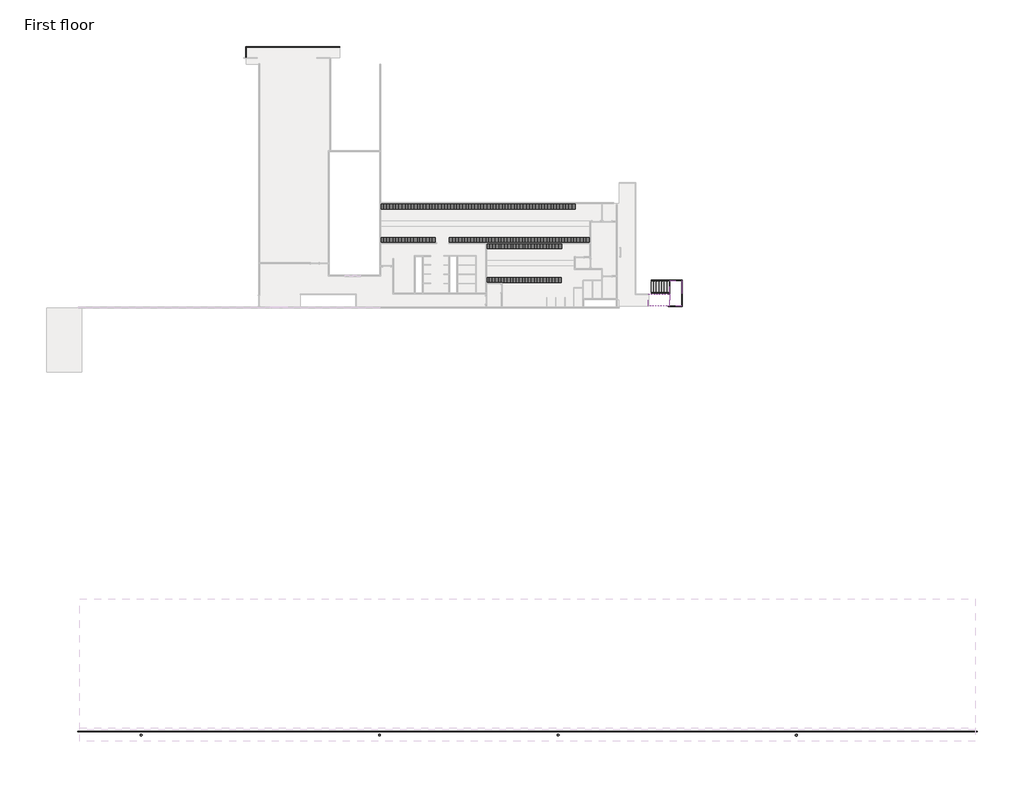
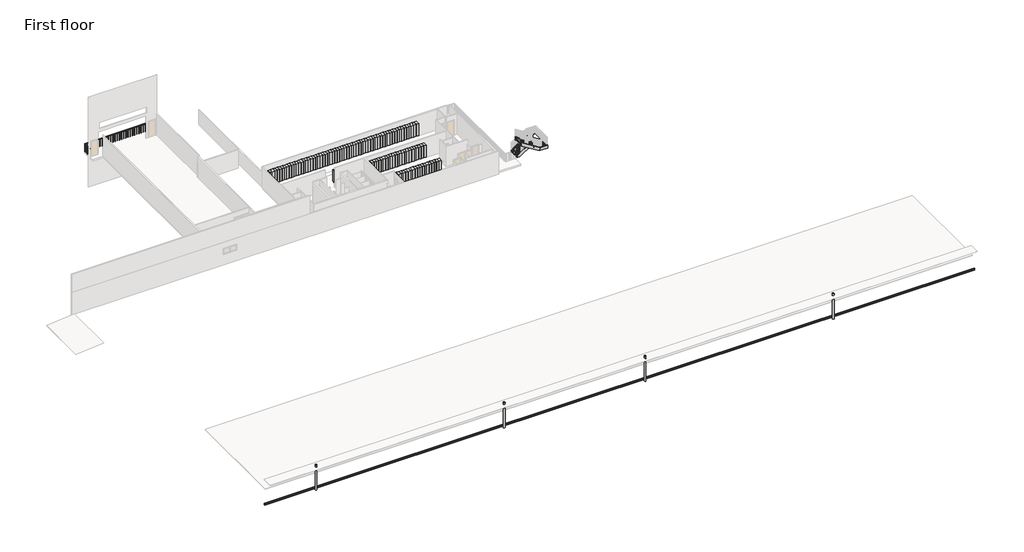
# One storey, part 5 of 5: 49 proxies, 8 members, 2 stair flights, 1 railing, 1 slab.
"""IFC4 building model written with IfcOpenShell, lengths in millimetres."""

from ifc_helpers import new_model, si_unit, frame, origin, place, context, project, spatial, polyline, outline, extrude, faceted_brep, transform, mapped, element, save
from components import generic_models_24_generic_models_24_b97e8785, generic_models_22_generic_models_5_a0ad3e2a, lockers_2_lockers_2_2d2369c1, non_monolithic_landing_4b6169c6, stair_flight_50mm_tread_13mm_riser_8a7f8e9f, stair_flight_50mm_tread_13mm_riser_0991af2e

model = new_model("IFC4")

# Units and contexts
model_context = context("Model", 3, world=origin())
ifc_project = project(units=[si_unit("LENGTHUNIT", "METRE", prefix="MILLI")], contexts=[model_context])

# Site, building, storey
site = spatial("IfcSite", under=ifc_project)
building = spatial("IfcBuilding", under=site)
storey = spatial("IfcBuildingStorey", under=building, Name="First floor", Elevation=48170.0)

# Proxies
placement = place(None, origin())
generic_models_24_generic_models_24_shape = generic_models_24_generic_models_24_b97e8785(model_context)
element("IfcBuildingElementProxy", 1, Name="Generic Models 24 : Generic Models 24", ObjectType="Generic Models 24 : Generic Models 24", at=placement, inside=storey, context=model_context, shape_type="MappedRepresentation", body=[
    mapped(generic_models_24_generic_models_24_shape, transform((0.0, -187.822734, 0.0), x_axis=(1.0, 0.0, 0.0), y_axis=(0.0, 1.0, 0.0), z_axis=(0.0, 0.0, 1.0))),
])
generic_models_22_generic_models_5_shape = generic_models_22_generic_models_5_a0ad3e2a(model_context)
element("IfcBuildingElementProxy", 2, Name="Generic Models 9 : Generic Models 5", ObjectType="Generic Models 9 : Generic Models 5", at=placement, inside=storey, context=model_context, shape_type="MappedRepresentation", body=[
    mapped(generic_models_22_generic_models_5_shape, transform((0.0, 3175.7150557, 165.0269221), x_axis=(1.0, 0.0, 0.0), y_axis=(0.0, 1.0, 0.0), z_axis=(0.0, 0.0, 1.0))),
])
lockers_2_lockers_2_shape = lockers_2_lockers_2_2d2369c1(model_context)
element("IfcBuildingElementProxy", 3, Name="lockers 2 : lockers 2", ObjectType="lockers 2 : lockers 2", at=placement, inside=storey, context=model_context, shape_type="MappedRepresentation", body=[
    mapped(lockers_2_lockers_2_shape, transform((-104247.796161, 21569.2777512, 48170.0), x_axis=(1.0, 0.0, 0.0), y_axis=(0.0, 1.0, 0.0), z_axis=(0.0, 0.0, 1.0))),
])
element("IfcBuildingElementProxy", 4, Name="lockers 2 : lockers 2", ObjectType="lockers 2 : lockers 2", at=placement, inside=storey, context=model_context, shape_type="MappedRepresentation", body=[
    mapped(lockers_2_lockers_2_shape, transform((-103027.796161, 21569.2777512, 48170.0), x_axis=(1.0, 0.0, 0.0), y_axis=(0.0, 1.0, 0.0), z_axis=(0.0, 0.0, 1.0))),
])
element("IfcBuildingElementProxy", 5, Name="lockers 2 : lockers 2", ObjectType="lockers 2 : lockers 2", at=placement, inside=storey, context=model_context, shape_type="MappedRepresentation", body=[
    mapped(lockers_2_lockers_2_shape, transform((-101807.796161, 21569.2777512, 48170.0), x_axis=(1.0, 0.0, 0.0), y_axis=(0.0, 1.0, 0.0), z_axis=(0.0, 0.0, 1.0))),
])
element("IfcBuildingElementProxy", 6, Name="lockers 2 : lockers 2", ObjectType="lockers 2 : lockers 2", at=placement, inside=storey, context=model_context, shape_type="MappedRepresentation", body=[
    mapped(lockers_2_lockers_2_shape, transform((-100587.796161, 21569.2777512, 48170.0), x_axis=(1.0, 0.0, 0.0), y_axis=(0.0, 1.0, 0.0), z_axis=(0.0, 0.0, 1.0))),
])
element("IfcBuildingElementProxy", 7, Name="lockers 2 : lockers 2", ObjectType="lockers 2 : lockers 2", at=placement, inside=storey, context=model_context, shape_type="MappedRepresentation", body=[
    mapped(lockers_2_lockers_2_shape, transform((-99367.796161, 21569.2777512, 48170.0), x_axis=(1.0, 0.0, 0.0), y_axis=(0.0, 1.0, 0.0), z_axis=(0.0, 0.0, 1.0))),
])
element("IfcBuildingElementProxy", 8, Name="lockers 2 : lockers 2", ObjectType="lockers 2 : lockers 2", at=placement, inside=storey, context=model_context, shape_type="MappedRepresentation", body=[
    mapped(lockers_2_lockers_2_shape, transform((-98147.796161, 21569.2777512, 48170.0), x_axis=(1.0, 0.0, 0.0), y_axis=(0.0, 1.0, 0.0), z_axis=(0.0, 0.0, 1.0))),
])
element("IfcBuildingElementProxy", 9, Name="lockers 2 : lockers 2", ObjectType="lockers 2 : lockers 2", at=placement, inside=storey, context=model_context, shape_type="MappedRepresentation", body=[
    mapped(lockers_2_lockers_2_shape, transform((-96927.796161, 21569.2777512, 48170.0), x_axis=(1.0, 0.0, 0.0), y_axis=(0.0, 1.0, 0.0), z_axis=(0.0, 0.0, 1.0))),
])
element("IfcBuildingElementProxy", 10, Name="lockers 2 : lockers 2", ObjectType="lockers 2 : lockers 2", at=placement, inside=storey, context=model_context, shape_type="MappedRepresentation", body=[
    mapped(lockers_2_lockers_2_shape, transform((-95707.796161, 21569.2777512, 48170.0), x_axis=(1.0, 0.0, 0.0), y_axis=(0.0, 1.0, 0.0), z_axis=(0.0, 0.0, 1.0))),
])
element("IfcBuildingElementProxy", 11, Name="lockers 2 : lockers 2", ObjectType="lockers 2 : lockers 2", at=placement, inside=storey, context=model_context, shape_type="MappedRepresentation", body=[
    mapped(lockers_2_lockers_2_shape, transform((-94487.796161, 21569.2777512, 48170.0), x_axis=(1.0, 0.0, 0.0), y_axis=(0.0, 1.0, 0.0), z_axis=(0.0, 0.0, 1.0))),
])
element("IfcBuildingElementProxy", 12, Name="lockers 2 : lockers 2", ObjectType="lockers 2 : lockers 2", at=placement, inside=storey, context=model_context, shape_type="MappedRepresentation", body=[
    mapped(lockers_2_lockers_2_shape, transform((-93267.796161, 21569.2777512, 48170.0), x_axis=(1.0, 0.0, 0.0), y_axis=(0.0, 1.0, 0.0), z_axis=(0.0, 0.0, 1.0))),
])
element("IfcBuildingElementProxy", 13, Name="lockers 2 : lockers 2", ObjectType="lockers 2 : lockers 2", at=placement, inside=storey, context=model_context, shape_type="MappedRepresentation", body=[
    mapped(lockers_2_lockers_2_shape, transform((-92047.796161, 21569.2777512, 48170.0), x_axis=(1.0, 0.0, 0.0), y_axis=(0.0, 1.0, 0.0), z_axis=(0.0, 0.0, 1.0))),
])
element("IfcBuildingElementProxy", 14, Name="lockers 2 : lockers 2", ObjectType="lockers 2 : lockers 2", at=placement, inside=storey, context=model_context, shape_type="MappedRepresentation", body=[
    mapped(lockers_2_lockers_2_shape, transform((-90827.796161, 21569.2777512, 48170.0), x_axis=(1.0, 0.0, 0.0), y_axis=(0.0, 1.0, 0.0), z_axis=(0.0, 0.0, 1.0))),
])
element("IfcBuildingElementProxy", 15, Name="lockers 2 : lockers 2", ObjectType="lockers 2 : lockers 2", at=placement, inside=storey, context=model_context, shape_type="MappedRepresentation", body=[
    mapped(lockers_2_lockers_2_shape, transform((-89607.796161, 21569.2777512, 48170.0), x_axis=(1.0, 0.0, 0.0), y_axis=(0.0, 1.0, 0.0), z_axis=(0.0, 0.0, 1.0))),
])
element("IfcBuildingElementProxy", 16, Name="lockers 2 : lockers 2", ObjectType="lockers 2 : lockers 2", at=placement, inside=storey, context=model_context, shape_type="MappedRepresentation", body=[
    mapped(lockers_2_lockers_2_shape, transform((-88387.796161, 21569.2777512, 48170.0), x_axis=(1.0, 0.0, 0.0), y_axis=(0.0, 1.0, 0.0), z_axis=(0.0, 0.0, 1.0))),
])
element("IfcBuildingElementProxy", 17, Name="lockers 2 : lockers 2", ObjectType="lockers 2 : lockers 2", at=placement, inside=storey, context=model_context, shape_type="MappedRepresentation", body=[
    mapped(lockers_2_lockers_2_shape, transform((-87167.796161, 21569.2777512, 48170.0), x_axis=(1.0, 0.0, 0.0), y_axis=(0.0, 1.0, 0.0), z_axis=(0.0, 0.0, 1.0))),
])
element("IfcBuildingElementProxy", 18, Name="lockers 2 : lockers 2", ObjectType="lockers 2 : lockers 2", at=placement, inside=storey, context=model_context, shape_type="MappedRepresentation", body=[
    mapped(lockers_2_lockers_2_shape, transform((-85947.796161, 21569.2777512, 48170.0), x_axis=(1.0, 0.0, 0.0), y_axis=(0.0, 1.0, 0.0), z_axis=(0.0, 0.0, 1.0))),
])
element("IfcBuildingElementProxy", 19, Name="lockers 2 : lockers 2", ObjectType="lockers 2 : lockers 2", at=placement, inside=storey, context=model_context, shape_type="MappedRepresentation", body=[
    mapped(lockers_2_lockers_2_shape, transform((-104247.796161, 18169.2777512, 48170.0), x_axis=(1.0, 0.0, 0.0), y_axis=(0.0, 1.0, 0.0), z_axis=(0.0, 0.0, 1.0))),
])
element("IfcBuildingElementProxy", 20, Name="lockers 2 : lockers 2", ObjectType="lockers 2 : lockers 2", at=placement, inside=storey, context=model_context, shape_type="MappedRepresentation", body=[
    mapped(lockers_2_lockers_2_shape, transform((-103037.6550452, 18169.2777512, 48170.0), x_axis=(1.0, 0.0, 0.0), y_axis=(0.0, 1.0, 0.0), z_axis=(0.0, 0.0, 1.0))),
])
element("IfcBuildingElementProxy", 21, Name="lockers 2 : lockers 2", ObjectType="lockers 2 : lockers 2", at=placement, inside=storey, context=model_context, shape_type="MappedRepresentation", body=[
    mapped(lockers_2_lockers_2_shape, transform((-101827.5139294, 18169.2777512, 48170.0), x_axis=(1.0, 0.0, 0.0), y_axis=(0.0, 1.0, 0.0), z_axis=(0.0, 0.0, 1.0))),
])
element("IfcBuildingElementProxy", 22, Name="lockers 2 : lockers 2", ObjectType="lockers 2 : lockers 2", at=placement, inside=storey, context=model_context, shape_type="MappedRepresentation", body=[
    mapped(lockers_2_lockers_2_shape, transform((-100617.3728136, 18169.2777512, 48170.0), x_axis=(1.0, 0.0, 0.0), y_axis=(0.0, 1.0, 0.0), z_axis=(0.0, 0.0, 1.0))),
])
element("IfcBuildingElementProxy", 23, Name="lockers 2 : lockers 2", ObjectType="lockers 2 : lockers 2", at=placement, inside=storey, context=model_context, shape_type="MappedRepresentation", body=[
    mapped(lockers_2_lockers_2_shape, transform((-97343.0605675, 18169.2777512, 48170.0), x_axis=(1.0, 0.0, 0.0), y_axis=(0.0, 1.0, 0.0), z_axis=(0.0, 0.0, 1.0))),
])
element("IfcBuildingElementProxy", 24, Name="lockers 2 : lockers 2", ObjectType="lockers 2 : lockers 2", at=placement, inside=storey, context=model_context, shape_type="MappedRepresentation", body=[
    mapped(lockers_2_lockers_2_shape, transform((-96123.0605675, 18169.2777512, 48170.0), x_axis=(1.0, 0.0, 0.0), y_axis=(0.0, 1.0, 0.0), z_axis=(0.0, 0.0, 1.0))),
])
element("IfcBuildingElementProxy", 25, Name="lockers 2 : lockers 2", ObjectType="lockers 2 : lockers 2", at=placement, inside=storey, context=model_context, shape_type="MappedRepresentation", body=[
    mapped(lockers_2_lockers_2_shape, transform((-94903.0605675, 18169.2777512, 48170.0), x_axis=(1.0, 0.0, 0.0), y_axis=(0.0, 1.0, 0.0), z_axis=(0.0, 0.0, 1.0))),
])
element("IfcBuildingElementProxy", 26, Name="lockers 2 : lockers 2", ObjectType="lockers 2 : lockers 2", at=placement, inside=storey, context=model_context, shape_type="MappedRepresentation", body=[
    mapped(lockers_2_lockers_2_shape, transform((-93683.0605675, 18169.2777512, 48170.0), x_axis=(1.0, 0.0, 0.0), y_axis=(0.0, 1.0, 0.0), z_axis=(0.0, 0.0, 1.0))),
])
element("IfcBuildingElementProxy", 27, Name="lockers 2 : lockers 2", ObjectType="lockers 2 : lockers 2", at=placement, inside=storey, context=model_context, shape_type="MappedRepresentation", body=[
    mapped(lockers_2_lockers_2_shape, transform((-92463.0605675, 18169.2777512, 48170.0), x_axis=(1.0, 0.0, 0.0), y_axis=(0.0, 1.0, 0.0), z_axis=(0.0, 0.0, 1.0))),
])
element("IfcBuildingElementProxy", 28, Name="lockers 2 : lockers 2", ObjectType="lockers 2 : lockers 2", at=placement, inside=storey, context=model_context, shape_type="MappedRepresentation", body=[
    mapped(lockers_2_lockers_2_shape, transform((-91243.0605675, 18169.2777512, 48170.0), x_axis=(1.0, 0.0, 0.0), y_axis=(0.0, 1.0, 0.0), z_axis=(0.0, 0.0, 1.0))),
])
element("IfcBuildingElementProxy", 29, Name="lockers 2 : lockers 2", ObjectType="lockers 2 : lockers 2", at=placement, inside=storey, context=model_context, shape_type="MappedRepresentation", body=[
    mapped(lockers_2_lockers_2_shape, transform((-90023.0605675, 18169.2777512, 48170.0), x_axis=(1.0, 0.0, 0.0), y_axis=(0.0, 1.0, 0.0), z_axis=(0.0, 0.0, 1.0))),
])
element("IfcBuildingElementProxy", 30, Name="lockers 2 : lockers 2", ObjectType="lockers 2 : lockers 2", at=placement, inside=storey, context=model_context, shape_type="MappedRepresentation", body=[
    mapped(lockers_2_lockers_2_shape, transform((-88803.0605675, 18169.2777512, 48170.0), x_axis=(1.0, 0.0, 0.0), y_axis=(0.0, 1.0, 0.0), z_axis=(0.0, 0.0, 1.0))),
])
element("IfcBuildingElementProxy", 31, Name="lockers 2 : lockers 2", ObjectType="lockers 2 : lockers 2", at=placement, inside=storey, context=model_context, shape_type="MappedRepresentation", body=[
    mapped(lockers_2_lockers_2_shape, transform((-87583.0605675, 18169.2777512, 48170.0), x_axis=(1.0, 0.0, 0.0), y_axis=(0.0, 1.0, 0.0), z_axis=(0.0, 0.0, 1.0))),
])
element("IfcBuildingElementProxy", 32, Name="lockers 2 : lockers 2", ObjectType="lockers 2 : lockers 2", at=placement, inside=storey, context=model_context, shape_type="MappedRepresentation", body=[
    mapped(lockers_2_lockers_2_shape, transform((-86363.0605675, 18169.2777512, 48170.0), x_axis=(1.0, 0.0, 0.0), y_axis=(0.0, 1.0, 0.0), z_axis=(0.0, 0.0, 1.0))),
])
element("IfcBuildingElementProxy", 33, Name="lockers 2 : lockers 2", ObjectType="lockers 2 : lockers 2", at=placement, inside=storey, context=model_context, shape_type="MappedRepresentation", body=[
    mapped(lockers_2_lockers_2_shape, transform((-85143.0605675, 18169.2777512, 48170.0), x_axis=(1.0, 0.0, 0.0), y_axis=(0.0, 1.0, 0.0), z_axis=(0.0, 0.0, 1.0))),
])
element("IfcBuildingElementProxy", 34, Name="lockers 2 : lockers 2", ObjectType="lockers 2 : lockers 2", at=placement, inside=storey, context=model_context, shape_type="MappedRepresentation", body=[
    mapped(lockers_2_lockers_2_shape, transform((-100007.3728136, 18169.2777512, 48170.0), x_axis=(1.0, 0.0, 0.0), y_axis=(0.0, 1.0, 0.0), z_axis=(0.0, 0.0, 1.0))),
])
element("IfcBuildingElementProxy", 35, Name="lockers 2 : lockers 2", ObjectType="lockers 2 : lockers 2", at=placement, inside=storey, context=model_context, shape_type="MappedRepresentation", body=[
    mapped(lockers_2_lockers_2_shape, transform((-84533.0605675, 18169.2777512, 48170.0), x_axis=(1.0, 0.0, 0.0), y_axis=(0.0, 1.0, 0.0), z_axis=(0.0, 0.0, 1.0))),
])
element("IfcBuildingElementProxy", 36, Name="lockers 2 : lockers 2", ObjectType="lockers 2 : lockers 2", at=placement, inside=storey, context=model_context, shape_type="MappedRepresentation", body=[
    mapped(lockers_2_lockers_2_shape, transform((-93624.6956534, 17569.2777512, 48170.0), x_axis=(1.0, 0.0, 0.0), y_axis=(0.0, 1.0, 0.0), z_axis=(0.0, 0.0, 1.0))),
])
element("IfcBuildingElementProxy", 37, Name="lockers 2 : lockers 2", ObjectType="lockers 2 : lockers 2", at=placement, inside=storey, context=model_context, shape_type="MappedRepresentation", body=[
    mapped(lockers_2_lockers_2_shape, transform((-92424.6956534, 17569.2777512, 48170.0), x_axis=(1.0, 0.0, 0.0), y_axis=(0.0, 1.0, 0.0), z_axis=(0.0, 0.0, 1.0))),
])
element("IfcBuildingElementProxy", 38, Name="lockers 2 : lockers 2", ObjectType="lockers 2 : lockers 2", at=placement, inside=storey, context=model_context, shape_type="MappedRepresentation", body=[
    mapped(lockers_2_lockers_2_shape, transform((-91224.6956534, 17569.2777512, 48170.0), x_axis=(1.0, 0.0, 0.0), y_axis=(0.0, 1.0, 0.0), z_axis=(0.0, 0.0, 1.0))),
])
element("IfcBuildingElementProxy", 39, Name="lockers 2 : lockers 2", ObjectType="lockers 2 : lockers 2", at=placement, inside=storey, context=model_context, shape_type="MappedRepresentation", body=[
    mapped(lockers_2_lockers_2_shape, transform((-90024.6956534, 17569.2777512, 48170.0), x_axis=(1.0, 0.0, 0.0), y_axis=(0.0, 1.0, 0.0), z_axis=(0.0, 0.0, 1.0))),
])
element("IfcBuildingElementProxy", 40, Name="lockers 2 : lockers 2", ObjectType="lockers 2 : lockers 2", at=placement, inside=storey, context=model_context, shape_type="MappedRepresentation", body=[
    mapped(lockers_2_lockers_2_shape, transform((-88824.6956534, 17569.2777512, 48170.0), x_axis=(1.0, 0.0, 0.0), y_axis=(0.0, 1.0, 0.0), z_axis=(0.0, 0.0, 1.0))),
])
element("IfcBuildingElementProxy", 41, Name="lockers 2 : lockers 2", ObjectType="lockers 2 : lockers 2", at=placement, inside=storey, context=model_context, shape_type="MappedRepresentation", body=[
    mapped(lockers_2_lockers_2_shape, transform((-87624.6956534, 17569.2777512, 48170.0), x_axis=(1.0, 0.0, 0.0), y_axis=(0.0, 1.0, 0.0), z_axis=(0.0, 0.0, 1.0))),
])
element("IfcBuildingElementProxy", 42, Name="lockers 2 : lockers 2", ObjectType="lockers 2 : lockers 2", at=placement, inside=storey, context=model_context, shape_type="MappedRepresentation", body=[
    mapped(lockers_2_lockers_2_shape, transform((-87304.6956534, 17569.2777512, 48170.0), x_axis=(1.0, 0.0, 0.0), y_axis=(0.0, 1.0, 0.0), z_axis=(0.0, 0.0, 1.0))),
])
element("IfcBuildingElementProxy", 43, Name="lockers 2 : lockers 2", ObjectType="lockers 2 : lockers 2", at=placement, inside=storey, context=model_context, shape_type="MappedRepresentation", body=[
    mapped(lockers_2_lockers_2_shape, transform((-93644.6956722, 14169.2762493, 48170.0), x_axis=(1.0, 0.0, 0.0), y_axis=(0.0, 1.0, 0.0), z_axis=(0.0, 0.0, 1.0))),
])
element("IfcBuildingElementProxy", 44, Name="lockers 2 : lockers 2", ObjectType="lockers 2 : lockers 2", at=placement, inside=storey, context=model_context, shape_type="MappedRepresentation", body=[
    mapped(lockers_2_lockers_2_shape, transform((-92444.6956722, 14169.2762493, 48170.0), x_axis=(1.0, 0.0, 0.0), y_axis=(0.0, 1.0, 0.0), z_axis=(0.0, 0.0, 1.0))),
])
element("IfcBuildingElementProxy", 45, Name="lockers 2 : lockers 2", ObjectType="lockers 2 : lockers 2", at=placement, inside=storey, context=model_context, shape_type="MappedRepresentation", body=[
    mapped(lockers_2_lockers_2_shape, transform((-91244.6956722, 14169.2762493, 48170.0), x_axis=(1.0, 0.0, 0.0), y_axis=(0.0, 1.0, 0.0), z_axis=(0.0, 0.0, 1.0))),
])
element("IfcBuildingElementProxy", 46, Name="lockers 2 : lockers 2", ObjectType="lockers 2 : lockers 2", at=placement, inside=storey, context=model_context, shape_type="MappedRepresentation", body=[
    mapped(lockers_2_lockers_2_shape, transform((-90044.6956722, 14169.2762493, 48170.0), x_axis=(1.0, 0.0, 0.0), y_axis=(0.0, 1.0, 0.0), z_axis=(0.0, 0.0, 1.0))),
])
element("IfcBuildingElementProxy", 47, Name="lockers 2 : lockers 2", ObjectType="lockers 2 : lockers 2", at=placement, inside=storey, context=model_context, shape_type="MappedRepresentation", body=[
    mapped(lockers_2_lockers_2_shape, transform((-88844.6956722, 14169.2762493, 48170.0), x_axis=(1.0, 0.0, 0.0), y_axis=(0.0, 1.0, 0.0), z_axis=(0.0, 0.0, 1.0))),
])
element("IfcBuildingElementProxy", 48, Name="lockers 2 : lockers 2", ObjectType="lockers 2 : lockers 2", at=placement, inside=storey, context=model_context, shape_type="MappedRepresentation", body=[
    mapped(lockers_2_lockers_2_shape, transform((-87644.6956722, 14169.2762493, 48170.0), x_axis=(1.0, 0.0, 0.0), y_axis=(0.0, 1.0, 0.0), z_axis=(0.0, 0.0, 1.0))),
])
element("IfcBuildingElementProxy", 49, Name="lockers 2 : lockers 2", ObjectType="lockers 2 : lockers 2", at=placement, inside=storey, context=model_context, shape_type="MappedRepresentation", body=[
    mapped(lockers_2_lockers_2_shape, transform((-87324.6956722, 14169.2762493, 48170.0), x_axis=(1.0, 0.0, 0.0), y_axis=(0.0, 1.0, 0.0), z_axis=(0.0, 0.0, 1.0))),
])

# Members
element("IfcMember", 50, ObjectType="Stringer - 50mm Width", at=placement, inside=storey, context=model_context, shape_type="SweptSolid", body=[
    extrude(outline(polyline([(49164.5207547, -75622.984487), (49564.5207547, -75508.661178), (51095.7370089, -77968.5913038), (50624.5749434, -77968.5913038), (49164.5207547, -75622.984487)])), frame((0.0, 12047.101051, 0.0), z_axis=(0.0, 1.0, 0.0), x_axis=(0.0, 0.0, 1.0)), (0.0, 0.0, 1.0), 50.0),
])
element("IfcMember", 51, ObjectType="Stringer - 50mm Width", at=placement, inside=storey, context=model_context, shape_type="SweptSolid", body=[
    extrude(outline(polyline([(49280.0541887, -75808.5913038), (49751.2162543, -75808.5913038), (51095.7370089, -77968.5913038), (50624.5749434, -77968.5913038), (49280.0541887, -75808.5913038)])), frame((0.0, 13297.101051, 0.0), z_axis=(0.0, 1.0, 0.0), x_axis=(0.0, 0.0, 1.0)), (0.0, 0.0, 1.0), 50.0),
])
element("IfcMember", 52, ObjectType="Stringer - 50mm Width", at=placement, inside=storey, context=model_context, shape_type="SweptSolid", body=[
    extrude(outline(polyline([(48406.6954996, -77698.5913038), (48170.0, -77698.5913038), (48170.0, -77321.915986), (49164.5207547, -75724.1981207), (49564.5207547, -75838.5214296), (48406.6954996, -77698.5913038)])), frame((0.0, 14647.4703267, 0.0), z_axis=(0.0, 1.0, 0.0), x_axis=(0.0, 0.0, 1.0)), (0.0, 0.0, 1.0), 50.0),
])
element("IfcMember", 53, ObjectType="Stringer - 50mm Width", at=placement, inside=storey, context=model_context, shape_type="SweptSolid", body=[
    extrude(outline(polyline([(48406.6954996, -77698.5913038), (48170.0, -77698.5913038), (48170.0, -77321.915986), (49080.8659287, -75858.5913038), (49552.0279943, -75858.5913038), (48406.6954996, -77698.5913038)])), frame((0.0, 13397.4703267, 0.0), z_axis=(0.0, 1.0, 0.0), x_axis=(0.0, 0.0, 1.0)), (0.0, 0.0, 1.0), 50.0),
])
element("IfcMember", 54, ObjectType="Stringer - 50mm Width", at=placement, inside=storey, context=model_context, shape_type="Brep", body=[
    faceted_brep([(-75508.661178, 12097.101051, 49564.5207547), (-75508.661178, 12047.101051, 49564.5207547), (-74558.5913038, 12047.101051, 49564.5207547), (-74608.5913038, 12097.101051, 49564.5207547), (-75622.984487, 12097.101051, 49164.5207547), (-74608.5913038, 12097.101051, 49164.5207547), (-75622.984487, 12047.101051, 49164.5207547), (-74558.5913038, 12047.101051, 49164.5207547)], [[[0, 1, 2, 3]], [[4, 0, 3, 5]], [[6, 4, 5, 7]], [[1, 6, 7, 2]], [[1, 0, 4, 6]], [[2, 7, 5, 3]]]),
])
element("IfcMember", 55, ObjectType="Stringer - 50mm Width", at=placement, inside=storey, context=model_context, shape_type="SweptSolid", body=[
    extrude(outline(polyline([(-74558.5913038, 12047.101051), (-74608.5913038, 12097.101051), (-74608.5913038, 14647.4703267), (-74558.5913038, 14697.4703267), (-74558.5913038, 12047.101051)])), frame((0.0, 0.0, 49164.5207547), z_axis=(0.0, 0.0, 1.0), x_axis=(1.0, 0.0, 0.0)), (0.0, 0.0, 1.0), 400.0),
])
element("IfcMember", 56, ObjectType="Stringer - 50mm Width", at=placement, inside=storey, context=model_context, shape_type="Brep", body=[
    faceted_brep([(-74608.5913038, 14647.4703267, 49564.5207547), (-74558.5913038, 14697.4703267, 49564.5207547), (-75838.5214296, 14697.4703267, 49564.5207547), (-75838.5214296, 14647.4703267, 49564.5207547), (-74608.5913038, 14647.4703267, 49164.5207547), (-75724.1981207, 14647.4703267, 49164.5207547), (-74558.5913038, 14697.4703267, 49164.5207547), (-75724.1981207, 14697.4703267, 49164.5207547)], [[[0, 1, 2, 3]], [[4, 0, 3, 5]], [[6, 4, 5, 7]], [[1, 6, 7, 2]], [[1, 0, 4, 6]], [[2, 7, 5, 3]]]),
])
element("IfcMember", 57, ObjectType="Stringer - 50mm Width", at=placement, inside=storey, context=model_context, shape_type="SweptSolid", body=[
    extrude(outline(polyline([(-75858.5913038, 13447.4703267), (-75808.5913038, 13447.4703267), (-75808.5913038, 13347.101051), (-75858.5913038, 13347.101051), (-75858.5913038, 13447.4703267)])), frame((0.0, 0.0, 49164.5207547), z_axis=(0.0, 0.0, 1.0), x_axis=(1.0, 0.0, 0.0)), (0.0, 0.0, 1.0), 400.0),
])

# Railing
element("IfcRailing", 58, ObjectType="1100mm", at=placement, inside=storey, context=model_context, shape_type="SolidModel", body=[
    faceted_brep([(-118423.6902477, 37066.2777512, 49270.0), (-118423.6902477, 37066.2777512, 49220.0), (-118373.6902477, 37066.2777512, 49220.0), (-118373.6902477, 37066.2777512, 49270.0), (-118423.6902477, 38203.2777512, 49270.0), (-118423.6902477, 38203.2777512, 49220.0), (-118373.6902477, 38153.2777512, 49220.0), (-118373.6902477, 38153.2777512, 49270.0), (-108977.8719448, 38203.2777512, 49270.0), (-108977.8719448, 38153.2777512, 49270.0), (-108977.8719448, 38153.2777512, 49220.0), (-108977.8719448, 38203.2777512, 49220.0)], [[[0, 1, 2, 3]], [[1, 0, 4, 5]], [[2, 1, 5, 6]], [[3, 2, 6, 7]], [[0, 3, 7, 4]], [[8, 9, 10, 11]], [[5, 4, 8, 11]], [[6, 5, 11, 10]], [[7, 6, 10, 9]], [[4, 7, 9, 8]]]),
    extrude(outline(polyline([(-109061.1902477, 38165.7777512), (-109061.1902477, 38190.7777512), (-109036.1902477, 38190.7777512), (-109036.1902477, 38165.7777512), (-109061.1902477, 38165.7777512)])), frame((0.0, 0.0, 48170.0), z_axis=(0.0, 0.0, 1.0), x_axis=(1.0, 0.0, 0.0)), (0.0, 0.0, 1.0), 1050.0),
    extrude(outline(polyline([(-109336.1902477, 38165.7777512), (-109336.1902477, 38190.7777512), (-109311.1902477, 38190.7777512), (-109311.1902477, 38165.7777512), (-109336.1902477, 38165.7777512)])), frame((0.0, 0.0, 48170.0), z_axis=(0.0, 0.0, 1.0), x_axis=(1.0, 0.0, 0.0)), (0.0, 0.0, 1.0), 1050.0),
    extrude(outline(polyline([(-109611.1902477, 38165.7777512), (-109611.1902477, 38190.7777512), (-109586.1902477, 38190.7777512), (-109586.1902477, 38165.7777512), (-109611.1902477, 38165.7777512)])), frame((0.0, 0.0, 48170.0), z_axis=(0.0, 0.0, 1.0), x_axis=(1.0, 0.0, 0.0)), (0.0, 0.0, 1.0), 1050.0),
    extrude(outline(polyline([(-109886.1902477, 38165.7777512), (-109886.1902477, 38190.7777512), (-109861.1902477, 38190.7777512), (-109861.1902477, 38165.7777512), (-109886.1902477, 38165.7777512)])), frame((0.0, 0.0, 48170.0), z_axis=(0.0, 0.0, 1.0), x_axis=(1.0, 0.0, 0.0)), (0.0, 0.0, 1.0), 1050.0),
    extrude(outline(polyline([(-110161.1902477, 38165.7777512), (-110161.1902477, 38190.7777512), (-110136.1902477, 38190.7777512), (-110136.1902477, 38165.7777512), (-110161.1902477, 38165.7777512)])), frame((0.0, 0.0, 48170.0), z_axis=(0.0, 0.0, 1.0), x_axis=(1.0, 0.0, 0.0)), (0.0, 0.0, 1.0), 1050.0),
    extrude(outline(polyline([(-110436.1902477, 38165.7777512), (-110436.1902477, 38190.7777512), (-110411.1902477, 38190.7777512), (-110411.1902477, 38165.7777512), (-110436.1902477, 38165.7777512)])), frame((0.0, 0.0, 48170.0), z_axis=(0.0, 0.0, 1.0), x_axis=(1.0, 0.0, 0.0)), (0.0, 0.0, 1.0), 1050.0),
    extrude(outline(polyline([(-110711.1902477, 38165.7777512), (-110711.1902477, 38190.7777512), (-110686.1902477, 38190.7777512), (-110686.1902477, 38165.7777512), (-110711.1902477, 38165.7777512)])), frame((0.0, 0.0, 48170.0), z_axis=(0.0, 0.0, 1.0), x_axis=(1.0, 0.0, 0.0)), (0.0, 0.0, 1.0), 1050.0),
    extrude(outline(polyline([(-110986.1902477, 38165.7777512), (-110986.1902477, 38190.7777512), (-110961.1902477, 38190.7777512), (-110961.1902477, 38165.7777512), (-110986.1902477, 38165.7777512)])), frame((0.0, 0.0, 48170.0), z_axis=(0.0, 0.0, 1.0), x_axis=(1.0, 0.0, 0.0)), (0.0, 0.0, 1.0), 1050.0),
    extrude(outline(polyline([(-111261.1902477, 38165.7777512), (-111261.1902477, 38190.7777512), (-111236.1902477, 38190.7777512), (-111236.1902477, 38165.7777512), (-111261.1902477, 38165.7777512)])), frame((0.0, 0.0, 48170.0), z_axis=(0.0, 0.0, 1.0), x_axis=(1.0, 0.0, 0.0)), (0.0, 0.0, 1.0), 1050.0),
    extrude(outline(polyline([(-111536.1902477, 38165.7777512), (-111536.1902477, 38190.7777512), (-111511.1902477, 38190.7777512), (-111511.1902477, 38165.7777512), (-111536.1902477, 38165.7777512)])), frame((0.0, 0.0, 48170.0), z_axis=(0.0, 0.0, 1.0), x_axis=(1.0, 0.0, 0.0)), (0.0, 0.0, 1.0), 1050.0),
    extrude(outline(polyline([(-111811.1902477, 38165.7777512), (-111811.1902477, 38190.7777512), (-111786.1902477, 38190.7777512), (-111786.1902477, 38165.7777512), (-111811.1902477, 38165.7777512)])), frame((0.0, 0.0, 48170.0), z_axis=(0.0, 0.0, 1.0), x_axis=(1.0, 0.0, 0.0)), (0.0, 0.0, 1.0), 1050.0),
    extrude(outline(polyline([(-112086.1902477, 38165.7777512), (-112086.1902477, 38190.7777512), (-112061.1902477, 38190.7777512), (-112061.1902477, 38165.7777512), (-112086.1902477, 38165.7777512)])), frame((0.0, 0.0, 48170.0), z_axis=(0.0, 0.0, 1.0), x_axis=(1.0, 0.0, 0.0)), (0.0, 0.0, 1.0), 1050.0),
    extrude(outline(polyline([(-112361.1902477, 38165.7777512), (-112361.1902477, 38190.7777512), (-112336.1902477, 38190.7777512), (-112336.1902477, 38165.7777512), (-112361.1902477, 38165.7777512)])), frame((0.0, 0.0, 48170.0), z_axis=(0.0, 0.0, 1.0), x_axis=(1.0, 0.0, 0.0)), (0.0, 0.0, 1.0), 1050.0),
    extrude(outline(polyline([(-112636.1902477, 38165.7777512), (-112636.1902477, 38190.7777512), (-112611.1902477, 38190.7777512), (-112611.1902477, 38165.7777512), (-112636.1902477, 38165.7777512)])), frame((0.0, 0.0, 48170.0), z_axis=(0.0, 0.0, 1.0), x_axis=(1.0, 0.0, 0.0)), (0.0, 0.0, 1.0), 1050.0),
    extrude(outline(polyline([(-112911.1902477, 38165.7777512), (-112911.1902477, 38190.7777512), (-112886.1902477, 38190.7777512), (-112886.1902477, 38165.7777512), (-112911.1902477, 38165.7777512)])), frame((0.0, 0.0, 48170.0), z_axis=(0.0, 0.0, 1.0), x_axis=(1.0, 0.0, 0.0)), (0.0, 0.0, 1.0), 1050.0),
    extrude(outline(polyline([(-113186.1902477, 38165.7777512), (-113186.1902477, 38190.7777512), (-113161.1902477, 38190.7777512), (-113161.1902477, 38165.7777512), (-113186.1902477, 38165.7777512)])), frame((0.0, 0.0, 48170.0), z_axis=(0.0, 0.0, 1.0), x_axis=(1.0, 0.0, 0.0)), (0.0, 0.0, 1.0), 1050.0),
    extrude(outline(polyline([(-113461.1902477, 38165.7777512), (-113461.1902477, 38190.7777512), (-113436.1902477, 38190.7777512), (-113436.1902477, 38165.7777512), (-113461.1902477, 38165.7777512)])), frame((0.0, 0.0, 48170.0), z_axis=(0.0, 0.0, 1.0), x_axis=(1.0, 0.0, 0.0)), (0.0, 0.0, 1.0), 1050.0),
    extrude(outline(polyline([(-113736.1902477, 38165.7777512), (-113736.1902477, 38190.7777512), (-113711.1902477, 38190.7777512), (-113711.1902477, 38165.7777512), (-113736.1902477, 38165.7777512)])), frame((0.0, 0.0, 48170.0), z_axis=(0.0, 0.0, 1.0), x_axis=(1.0, 0.0, 0.0)), (0.0, 0.0, 1.0), 1050.0),
    extrude(outline(polyline([(-114011.1902477, 38165.7777512), (-114011.1902477, 38190.7777512), (-113986.1902477, 38190.7777512), (-113986.1902477, 38165.7777512), (-114011.1902477, 38165.7777512)])), frame((0.0, 0.0, 48170.0), z_axis=(0.0, 0.0, 1.0), x_axis=(1.0, 0.0, 0.0)), (0.0, 0.0, 1.0), 1050.0),
    extrude(outline(polyline([(-114286.1902477, 38165.7777512), (-114286.1902477, 38190.7777512), (-114261.1902477, 38190.7777512), (-114261.1902477, 38165.7777512), (-114286.1902477, 38165.7777512)])), frame((0.0, 0.0, 48170.0), z_axis=(0.0, 0.0, 1.0), x_axis=(1.0, 0.0, 0.0)), (0.0, 0.0, 1.0), 1050.0),
    extrude(outline(polyline([(-114561.1902477, 38165.7777512), (-114561.1902477, 38190.7777512), (-114536.1902477, 38190.7777512), (-114536.1902477, 38165.7777512), (-114561.1902477, 38165.7777512)])), frame((0.0, 0.0, 48170.0), z_axis=(0.0, 0.0, 1.0), x_axis=(1.0, 0.0, 0.0)), (0.0, 0.0, 1.0), 1050.0),
    extrude(outline(polyline([(-114836.1902477, 38165.7777512), (-114836.1902477, 38190.7777512), (-114811.1902477, 38190.7777512), (-114811.1902477, 38165.7777512), (-114836.1902477, 38165.7777512)])), frame((0.0, 0.0, 48170.0), z_axis=(0.0, 0.0, 1.0), x_axis=(1.0, 0.0, 0.0)), (0.0, 0.0, 1.0), 1050.0),
    extrude(outline(polyline([(-115111.1902477, 38165.7777512), (-115111.1902477, 38190.7777512), (-115086.1902477, 38190.7777512), (-115086.1902477, 38165.7777512), (-115111.1902477, 38165.7777512)])), frame((0.0, 0.0, 48170.0), z_axis=(0.0, 0.0, 1.0), x_axis=(1.0, 0.0, 0.0)), (0.0, 0.0, 1.0), 1050.0),
    extrude(outline(polyline([(-115386.1902477, 38165.7777512), (-115386.1902477, 38190.7777512), (-115361.1902477, 38190.7777512), (-115361.1902477, 38165.7777512), (-115386.1902477, 38165.7777512)])), frame((0.0, 0.0, 48170.0), z_axis=(0.0, 0.0, 1.0), x_axis=(1.0, 0.0, 0.0)), (0.0, 0.0, 1.0), 1050.0),
    extrude(outline(polyline([(-115661.1902477, 38165.7777512), (-115661.1902477, 38190.7777512), (-115636.1902477, 38190.7777512), (-115636.1902477, 38165.7777512), (-115661.1902477, 38165.7777512)])), frame((0.0, 0.0, 48170.0), z_axis=(0.0, 0.0, 1.0), x_axis=(1.0, 0.0, 0.0)), (0.0, 0.0, 1.0), 1050.0),
    extrude(outline(polyline([(-115936.1902477, 38165.7777512), (-115936.1902477, 38190.7777512), (-115911.1902477, 38190.7777512), (-115911.1902477, 38165.7777512), (-115936.1902477, 38165.7777512)])), frame((0.0, 0.0, 48170.0), z_axis=(0.0, 0.0, 1.0), x_axis=(1.0, 0.0, 0.0)), (0.0, 0.0, 1.0), 1050.0),
    extrude(outline(polyline([(-116211.1902477, 38165.7777512), (-116211.1902477, 38190.7777512), (-116186.1902477, 38190.7777512), (-116186.1902477, 38165.7777512), (-116211.1902477, 38165.7777512)])), frame((0.0, 0.0, 48170.0), z_axis=(0.0, 0.0, 1.0), x_axis=(1.0, 0.0, 0.0)), (0.0, 0.0, 1.0), 1050.0),
    extrude(outline(polyline([(-116486.1902477, 38165.7777512), (-116486.1902477, 38190.7777512), (-116461.1902477, 38190.7777512), (-116461.1902477, 38165.7777512), (-116486.1902477, 38165.7777512)])), frame((0.0, 0.0, 48170.0), z_axis=(0.0, 0.0, 1.0), x_axis=(1.0, 0.0, 0.0)), (0.0, 0.0, 1.0), 1050.0),
    extrude(outline(polyline([(-116761.1902477, 38165.7777512), (-116761.1902477, 38190.7777512), (-116736.1902477, 38190.7777512), (-116736.1902477, 38165.7777512), (-116761.1902477, 38165.7777512)])), frame((0.0, 0.0, 48170.0), z_axis=(0.0, 0.0, 1.0), x_axis=(1.0, 0.0, 0.0)), (0.0, 0.0, 1.0), 1050.0),
    extrude(outline(polyline([(-117036.1902477, 38165.7777512), (-117036.1902477, 38190.7777512), (-117011.1902477, 38190.7777512), (-117011.1902477, 38165.7777512), (-117036.1902477, 38165.7777512)])), frame((0.0, 0.0, 48170.0), z_axis=(0.0, 0.0, 1.0), x_axis=(1.0, 0.0, 0.0)), (0.0, 0.0, 1.0), 1050.0),
    extrude(outline(polyline([(-117311.1902477, 38165.7777512), (-117311.1902477, 38190.7777512), (-117286.1902477, 38190.7777512), (-117286.1902477, 38165.7777512), (-117311.1902477, 38165.7777512)])), frame((0.0, 0.0, 48170.0), z_axis=(0.0, 0.0, 1.0), x_axis=(1.0, 0.0, 0.0)), (0.0, 0.0, 1.0), 1050.0),
    extrude(outline(polyline([(-117586.1902477, 38165.7777512), (-117586.1902477, 38190.7777512), (-117561.1902477, 38190.7777512), (-117561.1902477, 38165.7777512), (-117586.1902477, 38165.7777512)])), frame((0.0, 0.0, 48170.0), z_axis=(0.0, 0.0, 1.0), x_axis=(1.0, 0.0, 0.0)), (0.0, 0.0, 1.0), 1050.0),
    extrude(outline(polyline([(-117861.1902477, 38165.7777512), (-117861.1902477, 38190.7777512), (-117836.1902477, 38190.7777512), (-117836.1902477, 38165.7777512), (-117861.1902477, 38165.7777512)])), frame((0.0, 0.0, 48170.0), z_axis=(0.0, 0.0, 1.0), x_axis=(1.0, 0.0, 0.0)), (0.0, 0.0, 1.0), 1050.0),
    extrude(outline(polyline([(-118136.1902477, 38165.7777512), (-118136.1902477, 38190.7777512), (-118111.1902477, 38190.7777512), (-118111.1902477, 38165.7777512), (-118136.1902477, 38165.7777512)])), frame((0.0, 0.0, 48170.0), z_axis=(0.0, 0.0, 1.0), x_axis=(1.0, 0.0, 0.0)), (0.0, 0.0, 1.0), 1050.0),
    extrude(outline(polyline([(-118386.1902477, 38153.7777512), (-118411.1902477, 38153.7777512), (-118411.1902477, 38178.7777512), (-118386.1902477, 38178.7777512), (-118386.1902477, 38153.7777512)])), frame((0.0, 0.0, 48170.0), z_axis=(0.0, 0.0, 1.0), x_axis=(1.0, 0.0, 0.0)), (0.0, 0.0, 1.0), 1050.0),
    extrude(outline(polyline([(-118386.1902477, 37878.7777512), (-118411.1902477, 37878.7777512), (-118411.1902477, 37903.7777512), (-118386.1902477, 37903.7777512), (-118386.1902477, 37878.7777512)])), frame((0.0, 0.0, 48170.0), z_axis=(0.0, 0.0, 1.0), x_axis=(1.0, 0.0, 0.0)), (0.0, 0.0, 1.0), 1050.0),
    extrude(outline(polyline([(-118386.1902477, 37603.7777512), (-118411.1902477, 37603.7777512), (-118411.1902477, 37628.7777512), (-118386.1902477, 37628.7777512), (-118386.1902477, 37603.7777512)])), frame((0.0, 0.0, 48170.0), z_axis=(0.0, 0.0, 1.0), x_axis=(1.0, 0.0, 0.0)), (0.0, 0.0, 1.0), 1050.0),
    extrude(outline(polyline([(-118386.1902477, 37328.7777512), (-118411.1902477, 37328.7777512), (-118411.1902477, 37353.7777512), (-118386.1902477, 37353.7777512), (-118386.1902477, 37328.7777512)])), frame((0.0, 0.0, 48170.0), z_axis=(0.0, 0.0, 1.0), x_axis=(1.0, 0.0, 0.0)), (0.0, 0.0, 1.0), 1050.0),
    extrude(outline(polyline([(-118386.1902477, 38165.7777512), (-118411.1902477, 38165.7777512), (-118411.1902477, 38190.7777512), (-118386.1902477, 38190.7777512), (-118386.1902477, 38165.7777512)])), frame((0.0, 0.0, 48170.0), z_axis=(0.0, 0.0, 1.0), x_axis=(1.0, 0.0, 0.0)), (0.0, 0.0, 1.0), 1050.0),
    extrude(outline(polyline([(-109002.8719448, 38165.7777512), (-109002.8719448, 38190.7777512), (-108977.8719448, 38190.7777512), (-108977.8719448, 38165.7777512), (-109002.8719448, 38165.7777512)])), frame((0.0, 0.0, 48170.0), z_axis=(0.0, 0.0, 1.0), x_axis=(1.0, 0.0, 0.0)), (0.0, 0.0, 1.0), 1050.0),
    extrude(outline(polyline([(-118386.1902477, 37066.2777512), (-118411.1902477, 37066.2777512), (-118411.1902477, 37091.2777512), (-118386.1902477, 37091.2777512), (-118386.1902477, 37066.2777512)])), frame((0.0, 0.0, 48170.0), z_axis=(0.0, 0.0, 1.0), x_axis=(1.0, 0.0, 0.0)), (0.0, 0.0, 1.0), 1050.0),
])

# Slab
non_monolithic_landing_shape = non_monolithic_landing_4b6169c6(model_context)
element("IfcSlab", 59, ObjectType="Non-Monolithic Landing", at=placement, inside=storey, context=model_context, shape_type="MappedRepresentation", body=[
    mapped(non_monolithic_landing_shape, transform((0.0, 0.0, 0.0), x_axis=(1.0, 0.0, 0.0), y_axis=(0.0, 1.0, 0.0), z_axis=(0.0, 0.0, 1.0))),
])

# Stair flights
stair_flight_50mm_tread_13mm_riser_shape = stair_flight_50mm_tread_13mm_riser_8a7f8e9f(model_context)
element("IfcStairFlight", 60, ObjectType="50mm Tread 13mm Riser", at=placement, inside=storey, context=model_context, shape_type="MappedRepresentation", body=[
    mapped(stair_flight_50mm_tread_13mm_riser_shape, transform((0.0, 0.0, 0.0), x_axis=(1.0, 0.0, 0.0), y_axis=(0.0, 1.0, 0.0), z_axis=(0.0, 0.0, 1.0))),
])
stair_flight_50mm_tread_13mm_riser_2_shape = stair_flight_50mm_tread_13mm_riser_0991af2e(model_context)
element("IfcStairFlight", 61, ObjectType="50mm Tread 13mm Riser", at=placement, inside=storey, context=model_context, shape_type="MappedRepresentation", body=[
    mapped(stair_flight_50mm_tread_13mm_riser_2_shape, transform((0.0, 0.0, 0.0), x_axis=(1.0, 0.0, 0.0), y_axis=(0.0, 1.0, 0.0), z_axis=(0.0, 0.0, 1.0))),
])

save(model, "model.ifc")
